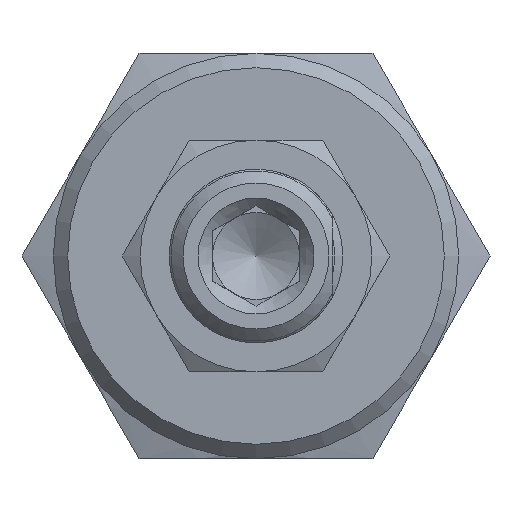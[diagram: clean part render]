
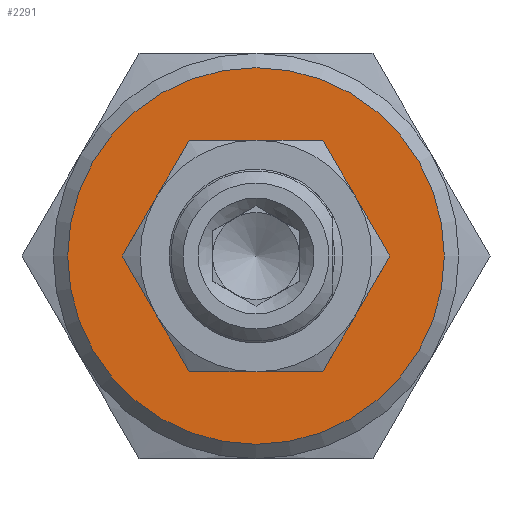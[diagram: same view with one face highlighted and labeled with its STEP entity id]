
A CAD part, left-side view. The second image highlights one B-rep face of the part: STEP entity #2291.
In plain terms, the highlighted planar face has unit normal (-1, 0, 0).
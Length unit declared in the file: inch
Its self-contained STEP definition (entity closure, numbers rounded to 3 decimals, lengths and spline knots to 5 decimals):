
#47=PLANE('',#2557);
#158=FACE_BOUND('',#480,.T.);
#320=FACE_OUTER_BOUND('',#479,.T.);
#479=EDGE_LOOP('',(#1821));
#480=EDGE_LOOP('',(#1822,#1823,#1824,#1825,#1826,#1827));
#820=CIRCLE('',#2517,0.4065);
#821=CIRCLE('',#2558,0.25);
#822=CIRCLE('',#2559,0.25);
#823=CIRCLE('',#2560,0.25);
#824=CIRCLE('',#2561,0.25);
#825=CIRCLE('',#2562,0.25);
#826=CIRCLE('',#2563,0.25);
#971=VERTEX_POINT('',#4110);
#990=VERTEX_POINT('',#4268);
#991=VERTEX_POINT('',#4269);
#992=VERTEX_POINT('',#4271);
#993=VERTEX_POINT('',#4273);
#994=VERTEX_POINT('',#4275);
#995=VERTEX_POINT('',#4277);
#1227=EDGE_CURVE('',#971,#971,#820,.T.);
#1277=EDGE_CURVE('',#990,#991,#821,.T.);
#1278=EDGE_CURVE('',#991,#992,#822,.T.);
#1279=EDGE_CURVE('',#992,#993,#823,.T.);
#1280=EDGE_CURVE('',#993,#994,#824,.T.);
#1281=EDGE_CURVE('',#994,#995,#825,.T.);
#1282=EDGE_CURVE('',#995,#990,#826,.T.);
#1821=ORIENTED_EDGE('',*,*,#1227,.F.);
#1822=ORIENTED_EDGE('',*,*,#1277,.T.);
#1823=ORIENTED_EDGE('',*,*,#1278,.T.);
#1824=ORIENTED_EDGE('',*,*,#1279,.T.);
#1825=ORIENTED_EDGE('',*,*,#1280,.T.);
#1826=ORIENTED_EDGE('',*,*,#1281,.T.);
#1827=ORIENTED_EDGE('',*,*,#1282,.T.);
#2291=ADVANCED_FACE('',(#320,#158),#47,.T.);
#2517=AXIS2_PLACEMENT_3D('',#4112,#3010,#3011);
#2557=AXIS2_PLACEMENT_3D('',#4267,#3115,#3116);
#2558=AXIS2_PLACEMENT_3D('',#4270,#3117,#3118);
#2559=AXIS2_PLACEMENT_3D('',#4272,#3119,#3120);
#2560=AXIS2_PLACEMENT_3D('',#4274,#3121,#3122);
#2561=AXIS2_PLACEMENT_3D('',#4276,#3123,#3124);
#2562=AXIS2_PLACEMENT_3D('',#4278,#3125,#3126);
#2563=AXIS2_PLACEMENT_3D('',#4279,#3127,#3128);
#3010=DIRECTION('center_axis',(1.,0.,0.));
#3011=DIRECTION('ref_axis',(0.,1.,0.));
#3115=DIRECTION('center_axis',(-1.,0.,0.));
#3116=DIRECTION('ref_axis',(0.,0.,1.));
#3117=DIRECTION('center_axis',(1.,0.,0.));
#3118=DIRECTION('ref_axis',(0.,0.,1.));
#3119=DIRECTION('center_axis',(1.,0.,0.));
#3120=DIRECTION('ref_axis',(0.,0.,1.));
#3121=DIRECTION('center_axis',(1.,0.,0.));
#3122=DIRECTION('ref_axis',(0.,0.,1.));
#3123=DIRECTION('center_axis',(1.,0.,0.));
#3124=DIRECTION('ref_axis',(0.,0.,1.));
#3125=DIRECTION('center_axis',(1.,0.,0.));
#3126=DIRECTION('ref_axis',(0.,0.,1.));
#3127=DIRECTION('center_axis',(1.,0.,0.));
#3128=DIRECTION('ref_axis',(0.,0.,1.));
#4110=CARTESIAN_POINT('',(-1.044,-0.4065,0.));
#4112=CARTESIAN_POINT('Origin',(-1.044,0.,0.));
#4267=CARTESIAN_POINT('Origin',(-1.044,0.20325,0.));
#4268=CARTESIAN_POINT('',(-1.044,0.21651,0.125));
#4269=CARTESIAN_POINT('',(-1.044,0.,0.25));
#4270=CARTESIAN_POINT('Origin',(-1.044,0.,0.));
#4271=CARTESIAN_POINT('',(-1.044,-0.21651,0.125));
#4272=CARTESIAN_POINT('Origin',(-1.044,0.,0.));
#4273=CARTESIAN_POINT('',(-1.044,-0.21651,-0.125));
#4274=CARTESIAN_POINT('Origin',(-1.044,0.,0.));
#4275=CARTESIAN_POINT('',(-1.044,0.,-0.25));
#4276=CARTESIAN_POINT('Origin',(-1.044,0.,0.));
#4277=CARTESIAN_POINT('',(-1.044,0.21651,-0.125));
#4278=CARTESIAN_POINT('Origin',(-1.044,0.,0.));
#4279=CARTESIAN_POINT('Origin',(-1.044,0.,0.));
